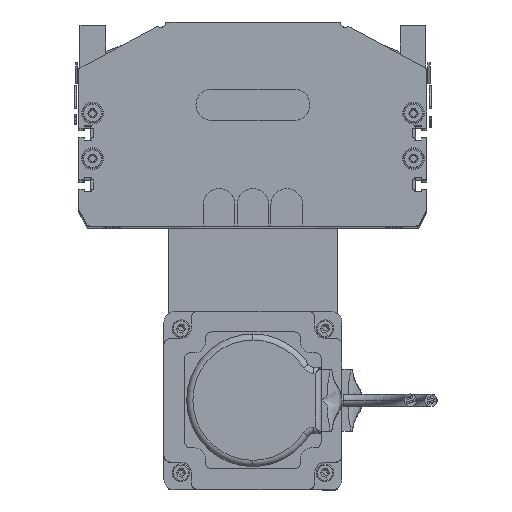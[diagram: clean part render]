
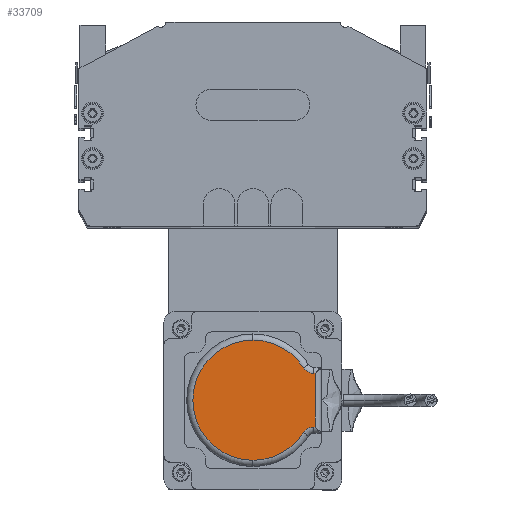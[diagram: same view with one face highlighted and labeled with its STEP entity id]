
A CAD part, top view. The second image highlights one B-rep face of the part: STEP entity #33709.
In plain terms, the highlighted planar face has unit normal (0, 0, 1).
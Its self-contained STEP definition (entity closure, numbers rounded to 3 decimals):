
#33671 = EDGE_CURVE ( 'NONE', #33816, #33751, #56149, .T. ) ;
#33709 = ADVANCED_FACE ( 'NONE', ( #56430 ), #56283, .T. ) ;
#33720 = ORIENTED_EDGE ( 'NONE', *, *, #34364, .F. ) ;
#33735 = EDGE_CURVE ( 'NONE', #33818, #33816, #56361, .T. ) ;
#33751 = VERTEX_POINT ( 'NONE', #56298 ) ;
#33816 = VERTEX_POINT ( 'NONE', #56571 ) ;
#33818 = VERTEX_POINT ( 'NONE', #56572 ) ;
#33821 = VERTEX_POINT ( 'NONE', #56543 ) ;
#33850 = EDGE_LOOP ( 'NONE', ( #33720, #34120, #34561, #34134, #34437, #34435, #34207, #34168 ) ) ;
#34120 = ORIENTED_EDGE ( 'NONE', *, *, #33735, .T. ) ;
#34134 = ORIENTED_EDGE ( 'NONE', *, *, #34562, .T. ) ;
#34135 = VERTEX_POINT ( 'NONE', #56884 ) ;
#34168 = ORIENTED_EDGE ( 'NONE', *, *, #34487, .T. ) ;
#34189 = EDGE_CURVE ( 'NONE', #34203, #34135, #57428, .T. ) ;
#34203 = VERTEX_POINT ( 'NONE', #57586 ) ;
#34207 = ORIENTED_EDGE ( 'NONE', *, *, #34318, .T. ) ;
#34209 = EDGE_CURVE ( 'NONE', #34203, #34434, #57563, .T. ) ;
#34318 = EDGE_CURVE ( 'NONE', #34434, #34503, #58046, .T. ) ;
#34364 = EDGE_CURVE ( 'NONE', #33818, #33821, #58137, .T. ) ;
#34434 = VERTEX_POINT ( 'NONE', #58065 ) ;
#34435 = ORIENTED_EDGE ( 'NONE', *, *, #34209, .T. ) ;
#34437 = ORIENTED_EDGE ( 'NONE', *, *, #34189, .F. ) ;
#34487 = EDGE_CURVE ( 'NONE', #34503, #33821, #58702, .T. ) ;
#34503 = VERTEX_POINT ( 'NONE', #58592 ) ;
#34561 = ORIENTED_EDGE ( 'NONE', *, *, #33671, .T. ) ;
#34562 = EDGE_CURVE ( 'NONE', #33751, #34135, #58564, .T. ) ;
#56119 = DIRECTION ( 'NONE',  ( 1., 0., 0. ) ) ;
#56120 = DIRECTION ( 'NONE',  ( 0., 0., 1. ) ) ;
#56142 = CARTESIAN_POINT ( 'NONE',  ( 33., 33., 26. ) ) ;
#56149 = CIRCLE ( 'NONE', #56196, 29. ) ;
#56196 = AXIS2_PLACEMENT_3D ( 'NONE', #56142, #56120, #56119 ) ;
#56283 = PLANE ( 'NONE',  #56432 ) ;
#56298 = CARTESIAN_POINT ( 'NONE',  ( 62., 33., 26. ) ) ;
#56302 = CARTESIAN_POINT ( 'NONE',  ( 33., 33., 26. ) ) ;
#56304 = AXIS2_PLACEMENT_3D ( 'NONE', #56302, #56407, #56406 ) ;
#56316 = CARTESIAN_POINT ( 'NONE',  ( 33., 33., 26. ) ) ;
#56351 = DIRECTION ( 'NONE',  ( 1., 0., 0. ) ) ;
#56361 = CIRCLE ( 'NONE', #56304, 29. ) ;
#56390 = DIRECTION ( 'NONE',  ( 0., 0., 1. ) ) ;
#56406 = DIRECTION ( 'NONE',  ( 1., 0., 0. ) ) ;
#56407 = DIRECTION ( 'NONE',  ( 0., 0., 1. ) ) ;
#56430 = FACE_OUTER_BOUND ( 'NONE', #33850, .T. ) ;
#56432 = AXIS2_PLACEMENT_3D ( 'NONE', #56316, #56390, #56351 ) ;
#56543 = CARTESIAN_POINT ( 'NONE',  ( 20., 62.394, 26. ) ) ;
#56571 = CARTESIAN_POINT ( 'NONE',  ( 4., 33., 26. ) ) ;
#56572 = CARTESIAN_POINT ( 'NONE',  ( 17.257, 57.355, 26. ) ) ;
#56884 = CARTESIAN_POINT ( 'NONE',  ( 48.743, 57.355, 26. ) ) ;
#57428 = CIRCLE ( 'NONE', #57544, 6. ) ;
#57485 = DIRECTION ( 'NONE',  ( 1., 0., 0. ) ) ;
#57487 = DIRECTION ( 'NONE',  ( 0., 0., 1. ) ) ;
#57544 = AXIS2_PLACEMENT_3D ( 'NONE', #57552, #57487, #57485 ) ;
#57552 = CARTESIAN_POINT ( 'NONE',  ( 52., 62.394, 26. ) ) ;
#57558 = DIRECTION ( 'NONE',  ( 0., 1., 0. ) ) ;
#57560 = VECTOR ( 'NONE', #57558, 1000. ) ;
#57562 = CARTESIAN_POINT ( 'NONE',  ( 46., 33., 26. ) ) ;
#57563 = LINE ( 'NONE', #57562, #57560 ) ;
#57586 = CARTESIAN_POINT ( 'NONE',  ( 46., 62.394, 26. ) ) ;
#58043 = DIRECTION ( 'NONE',  ( -1., 0., 0. ) ) ;
#58044 = VECTOR ( 'NONE', #58043, 1000. ) ;
#58045 = CARTESIAN_POINT ( 'NONE',  ( 17.5, 63., 26. ) ) ;
#58046 = LINE ( 'NONE', #58045, #58044 ) ;
#58065 = CARTESIAN_POINT ( 'NONE',  ( 46., 63., 26. ) ) ;
#58128 = DIRECTION ( 'NONE',  ( 1., 0., 0. ) ) ;
#58129 = DIRECTION ( 'NONE',  ( 0., 0., 1. ) ) ;
#58137 = CIRCLE ( 'NONE', #58143, 6. ) ;
#58143 = AXIS2_PLACEMENT_3D ( 'NONE', #58158, #58129, #58128 ) ;
#58158 = CARTESIAN_POINT ( 'NONE',  ( 14., 62.394, 26. ) ) ;
#58513 = VECTOR ( 'NONE', #58521, 1000. ) ;
#58514 = CARTESIAN_POINT ( 'NONE',  ( 20., 33., 26. ) ) ;
#58521 = DIRECTION ( 'NONE',  ( 0., -1., 0. ) ) ;
#58524 = AXIS2_PLACEMENT_3D ( 'NONE', #58563, #58552, #58550 ) ;
#58550 = DIRECTION ( 'NONE',  ( 1., 0., 0. ) ) ;
#58552 = DIRECTION ( 'NONE',  ( 0., 0., 1. ) ) ;
#58563 = CARTESIAN_POINT ( 'NONE',  ( 33., 33., 26. ) ) ;
#58564 = CIRCLE ( 'NONE', #58524, 29. ) ;
#58592 = CARTESIAN_POINT ( 'NONE',  ( 20., 63., 26. ) ) ;
#58702 = LINE ( 'NONE', #58514, #58513 ) ;
